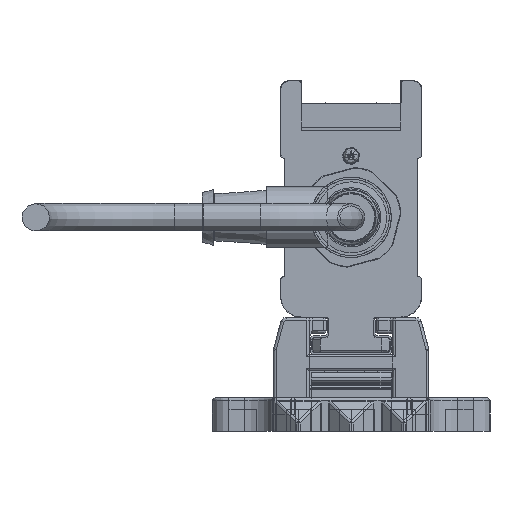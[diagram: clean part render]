
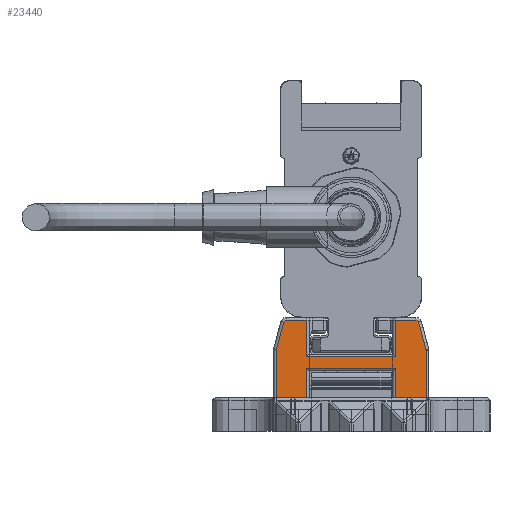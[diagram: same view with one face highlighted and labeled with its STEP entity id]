
A CAD part, left-side view. The second image highlights one B-rep face of the part: STEP entity #23440.
In plain terms, the highlighted planar face has unit normal (-1, 0, 0).
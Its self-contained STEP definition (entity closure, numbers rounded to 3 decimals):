
#23440=ADVANCED_FACE('', (#23450), #23460, .T.);
#165170=AXIS2_PLACEMENT_3D('Ax2Pl3d', #165180, #165190, #165200);
#165410=AXIS2_PLACEMENT_3D('Ax2Pl3d', #165420, #165430, #165440);
#170290=AXIS2_PLACEMENT_3D('Ax2Pl3d', #170300, #170310, #170320);
#175370=AXIS2_PLACEMENT_3D('Ax2Pl3d', #175380, #175390, #175400);
#185050=AXIS2_PLACEMENT_3D('Ax2Pl3d', #185060, #185070, #185080);
#714080=CARTESIAN_POINT('', (-747.669,-4806.345,
331.37));
#165180=CARTESIAN_POINT('HicPkt', (-747.669,-4805.379,
331.111));
#714090=CARTESIAN_POINT('', (-747.669,-4806.379,331.111)
);
#714100=CARTESIAN_POINT('', (-747.669,-4805.037,
336.255));
#714120=CARTESIAN_POINT('', (-747.669,-4805.037,
336.255));
#714150=CARTESIAN_POINT('', (-747.669,-4804.554,
336.625));
#165420=CARTESIAN_POINT('HicPkt', (-747.669,-4804.554,
336.125));
#714370=CARTESIAN_POINT('', (-747.669,-4806.379,322.625)
);
#714380=CARTESIAN_POINT('', (-747.669,-4800.881,322.625)
);
#714390=CARTESIAN_POINT('', (-747.669,-4800.881,322.625)
);
#714470=CARTESIAN_POINT('', (-747.669,-4784.881,322.625)
);
#714480=CARTESIAN_POINT('', (-747.669,-4779.383,322.625)
);
#714490=CARTESIAN_POINT('', (-747.669,-4779.383,322.625)
);
#170300=CARTESIAN_POINT('HicPkt', (-747.669,-4781.209,
336.125));
#716960=CARTESIAN_POINT('', (-747.669,-4780.726,
336.255));
#716970=CARTESIAN_POINT('', (-747.669,-4781.209,
336.625));
#716980=CARTESIAN_POINT('', (-747.669,-4800.881,
330.025));
#716990=CARTESIAN_POINT('', (-747.669,-4784.881,
330.025));
#717000=CARTESIAN_POINT('', (-747.669,-4800.881,
330.025));
#717160=CARTESIAN_POINT('', (-747.669,-4800.881,
328.005));
#717170=CARTESIAN_POINT('', (-747.669,-4784.881,
328.005));
#717180=CARTESIAN_POINT('', (-747.669,-4784.881,
328.005));
#717190=CARTESIAN_POINT('', (-747.669,-4800.881,
328.005));
#717210=CARTESIAN_POINT('', (-747.669,-4784.881,322.625)
);
#717220=CARTESIAN_POINT('', (-747.669,-4784.881,
330.025));
#717230=CARTESIAN_POINT('', (-747.669,-4784.881,
336.625));
#718080=CARTESIAN_POINT('', (-747.669,-4784.881,
336.625));
#718090=CARTESIAN_POINT('', (-747.669,-4780.726,
336.255));
#718100=CARTESIAN_POINT('', (-747.669,-4779.417,
331.37));
#718290=CARTESIAN_POINT('', (-747.669,-4779.383,331.111)
);
#718300=CARTESIAN_POINT('', (-747.669,-4779.383,331.111)
);
#175380=CARTESIAN_POINT('HicPkt', (-747.669,-4780.383,
331.111));
#719110=CARTESIAN_POINT('', (-747.669,-4806.379,331.111)
);
#185060=CARTESIAN_POINT('HicPkt', (-747.669,-4804.554,
336.625));
#720910=CARTESIAN_POINT('', (-747.669,-4800.881,
336.625));
#720920=CARTESIAN_POINT('', (-747.669,-4800.881,
336.625));
#720930=CARTESIAN_POINT('', (-747.669,-4800.881,
336.625));
#828200=CIRCLE('Circle', #165170, 1.);
#828240=CIRCLE('Circle', #165410, 0.5);
#828820=CIRCLE('Circle', #170290, 0.5);
#829350=CIRCLE('Circle', #175370, 1.);
#165190=DIRECTION('Axis', (-1.,0.,
0.));
#165200=DIRECTION('RefDirection', (0.,
0.,-1.));
#1155220=DIRECTION('', (0.,0.259,
0.966));
#165430=DIRECTION('Axis', (-1.,0.,
0.));
#165440=DIRECTION('RefDirection', (0.,
0.,-1.));
#1155330=DIRECTION('', (0.,1.,0.));
#1155370=DIRECTION('', (0.,1.,0.));
#170310=DIRECTION('Axis', (1.,0.,
0.));
#170320=DIRECTION('RefDirection', (0.,
0.,-1.));
#1156560=DIRECTION('', (0.,-1.,0.));
#1156660=DIRECTION('', (0.,1.,0.));
#1156670=DIRECTION('', (0.,0.,1.));
#1156690=DIRECTION('', (0.,0.,-1.));
#1156700=DIRECTION('', (0.,0.,-1.));
#1157130=DIRECTION('', (0.,-1.,0.))
;
#1157140=DIRECTION('', (0.,-0.259,0.966));
#1157230=DIRECTION('', (0.,0.,1.));
#175390=DIRECTION('Axis', (1.,0.,
0.));
#175400=DIRECTION('RefDirection', (0.,
0.,-1.));
#1157600=DIRECTION('', (0.,0.,1.));
#185070=DIRECTION('Axis', (-1.,0.,
0.));
#185080=DIRECTION('RefDirection', (0.,
0.,-1.));
#1158440=DIRECTION('', (0.,1.,0.));
#1158450=DIRECTION('', (0.,0.,1.));
#1233130=EDGE_CURVE('', #1233140, #1233120, #828200, .T.);
#1233190=EDGE_CURVE('', #1233120, #1233170, #1233200, .T.);
#1233260=EDGE_CURVE('', #1233170, #1233250, #828240, .T.);
#1233710=EDGE_CURVE('', #1233700, #1233720, #1233730, .T.);
#1233870=EDGE_CURVE('', #1233860, #1233880, #1233890, .T.);
#1238230=EDGE_CURVE('', #1238240, #1238250, #828820, .T.);
#1238280=EDGE_CURVE('', #1238290, #1238300, #1238310, .T.);
#1238650=EDGE_CURVE('', #1238630, #1238660, #1238670, .T.);
#1238700=EDGE_CURVE('', #1233720, #1238630, #1238710, .T.);
#1238740=EDGE_CURVE('', #1238660, #1233860, #1238750, .T.);
#1238760=EDGE_CURVE('', #1238770, #1238290, #1238780, .T.);
#1240600=EDGE_CURVE('', #1238250, #1238770, #1240610, .T.);
#1240670=EDGE_CURVE('', #1240680, #1238240, #1240690, .T.);
#1241110=EDGE_CURVE('', #1233880, #1241120, #1241130, .T.);
#1241150=EDGE_CURVE('', #1241120, #1240680, #829350, .T.);
#1242860=EDGE_CURVE('', #1233700, #1233140, #1242870, .T.);
#1246670=EDGE_CURVE('', #1233250, #1246680, #1246690, .T.);
#1246700=EDGE_CURVE('', #1238300, #1246680, #1246710, .T.);
#1483650=EDGE_LOOP('Edge_loop', (#1483660,#1483670,#1483680,#1483690,
#1483700,#1483710,#1483720,#1483730,#1483740,#1483750,#1483760,
#1483770,#1483780,#1483790,#1483800,#1483810,#1483820,#1483830));
#23450=FACE_OUTER_BOUND('Face_outer_bound', #1483650, .T.);
#1233200=LINE('Line', #714120, #1704690);
#1233730=LINE('Line', #714380, #1704800);
#1233890=LINE('Line', #714480, #1704840);
#1238310=LINE('Line', #716980, #1706030);
#1238670=LINE('Line', #717170, #1706130);
#1238710=LINE('Line', #717190, #1706140);
#1238750=LINE('Line', #717210, #1706160);
#1238780=LINE('Line', #717220, #1706170);
#1240610=LINE('Line', #718080, #1706600);
#1240690=LINE('Line', #718090, #1706610);
#1241130=LINE('Line', #718290, #1706700);
#1242870=LINE('Line', #719110, #1707070);
#1246690=LINE('Line', #720910, #1707910);
#1246710=LINE('Line', #720930, #1707920);
#1483660=ORIENTED_EDGE('', *, *, #1246670, .T.);
#1483670=ORIENTED_EDGE('', *, *, #1246700, .F.);
#1483680=ORIENTED_EDGE('', *, *, #1238280, .F.);
#1483690=ORIENTED_EDGE('', *, *, #1238760, .F.);
#1483700=ORIENTED_EDGE('', *, *, #1240600, .F.);
#1483710=ORIENTED_EDGE('', *, *, #1238230, .F.);
#1483720=ORIENTED_EDGE('', *, *, #1240670, .F.);
#1483730=ORIENTED_EDGE('', *, *, #1241150, .F.);
#1483740=ORIENTED_EDGE('', *, *, #1241110, .F.);
#1483750=ORIENTED_EDGE('', *, *, #1233870, .F.);
#1483760=ORIENTED_EDGE('', *, *, #1238740, .F.);
#1483770=ORIENTED_EDGE('', *, *, #1238650, .F.);
#1483780=ORIENTED_EDGE('', *, *, #1238700, .F.);
#1483790=ORIENTED_EDGE('', *, *, #1233710, .F.);
#1483800=ORIENTED_EDGE('', *, *, #1242860, .T.);
#1483810=ORIENTED_EDGE('', *, *, #1233130, .T.);
#1483820=ORIENTED_EDGE('', *, *, #1233190, .T.);
#1483830=ORIENTED_EDGE('', *, *, #1233260, .T.);
#23460=PLANE('Plane', #185050);
#1704690=VECTOR('', #1155220, 5.057);
#1704800=VECTOR('', #1155330, 5.498);
#1704840=VECTOR('', #1155370, 5.498);
#1706030=VECTOR('', #1156560, 16.);
#1706130=VECTOR('', #1156660, 16.);
#1706140=VECTOR('', #1156670, 5.38);
#1706160=VECTOR('', #1156690, 5.38);
#1706170=VECTOR('', #1156700, 6.6);
#1706600=VECTOR('', #1157130, 3.672);
#1706610=VECTOR('', #1157140, 5.057);
#1706700=VECTOR('', #1157230, 8.486);
#1707070=VECTOR('', #1157600, 8.486);
#1707910=VECTOR('', #1158440, 3.672);
#1707920=VECTOR('', #1158450, 6.6);
#1233120=VERTEX_POINT('', #714080);
#1233140=VERTEX_POINT('', #714090);
#1233170=VERTEX_POINT('', #714100);
#1233250=VERTEX_POINT('', #714150);
#1233700=VERTEX_POINT('', #714370);
#1233720=VERTEX_POINT('', #714390);
#1233860=VERTEX_POINT('', #714470);
#1233880=VERTEX_POINT('', #714490);
#1238240=VERTEX_POINT('', #716960);
#1238250=VERTEX_POINT('', #716970);
#1238290=VERTEX_POINT('', #716990);
#1238300=VERTEX_POINT('', #717000);
#1238630=VERTEX_POINT('', #717160);
#1238660=VERTEX_POINT('', #717180);
#1238770=VERTEX_POINT('', #717230);
#1240680=VERTEX_POINT('', #718100);
#1241120=VERTEX_POINT('', #718300);
#1246680=VERTEX_POINT('', #720920);
